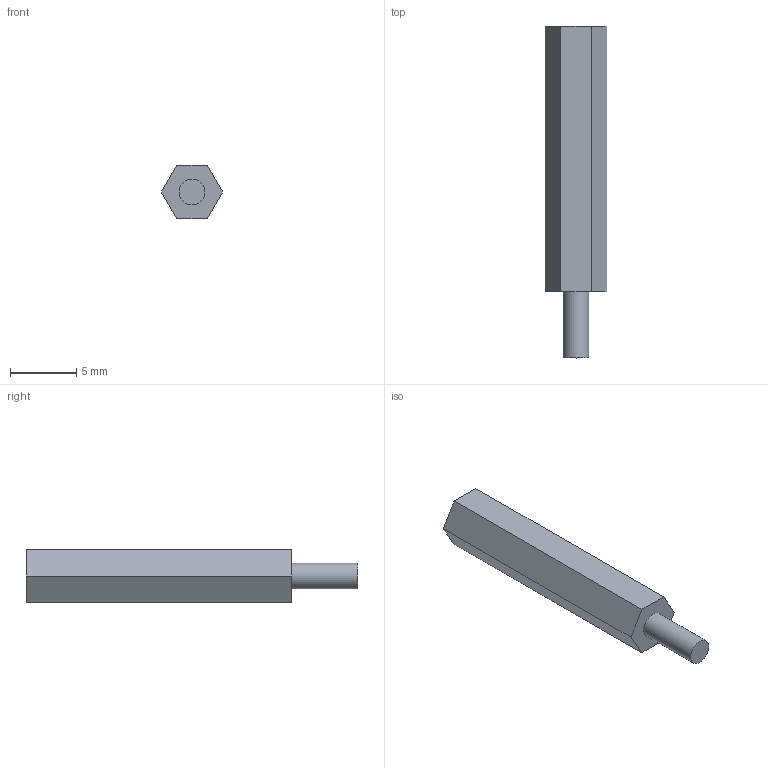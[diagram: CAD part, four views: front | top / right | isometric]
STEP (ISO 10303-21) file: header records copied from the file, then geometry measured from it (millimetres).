
FILE_DESCRIPTION(/* description */ (''),/* implementation_level */ '2;1');
FILE_NAME(/* name */ 'C:/Users/priba/Documents/Temp/mrm-spac20m2nyl.step',/* time_stamp */ '2020-04-08T14:18:59+02:00',/* author */ (''),/* organization */ (''),/* preprocessor_version */ 'ST-DEVELOPER v18',/* originating_system */ 'Autodesk Translation Framework v8.12.0.6',/* authorisation */ '');
FILE_SCHEMA (('AUTOMOTIVE_DESIGN { 1 0 10303 214 3 1 1 }'));
Length unit declared in the file: millimetre
Products named in the file (1): mrm-spac20m2nyl
Bounding box: 4.62 x 25 x 4 mm (x, y, z)
Volume: 278.6 mm3; surface area: 360.9 mm2
Topology: 1 solids, 1 shells, 12 faces, 28 edges, 19 vertices
Faces by surface type: plane 9, cylinder 2, cone 1
Full cylindrical faces by diameter (mm): 1.933 x1, 2 x1
Entity records: 374 total; most frequent: DIRECTION 59, CARTESIAN_POINT 59, ORIENTED_EDGE 54, EDGE_CURVE 27, LINE 21, VECTOR 21, VERTEX_POINT 19, AXIS2_PLACEMENT_3D 19
